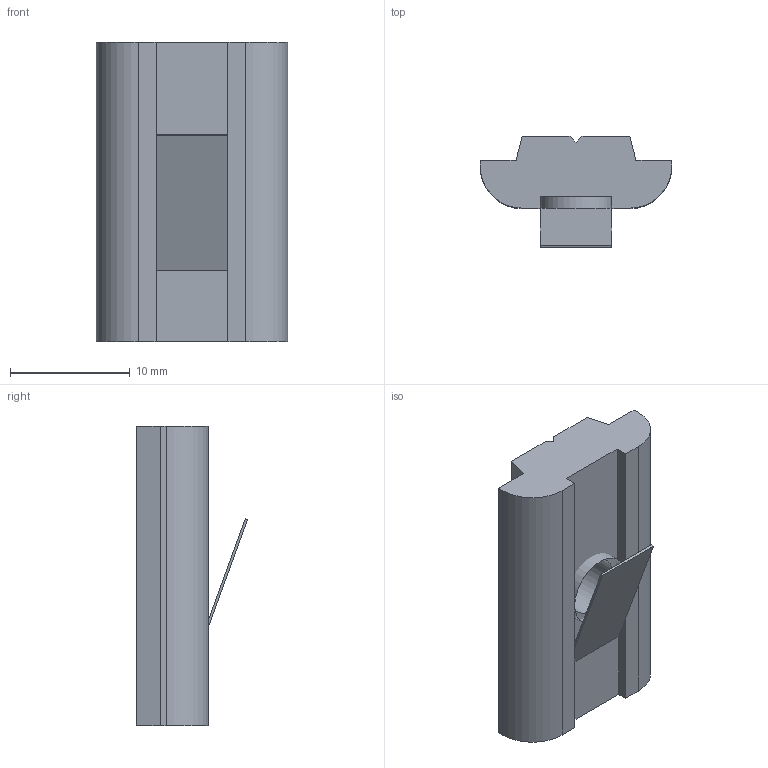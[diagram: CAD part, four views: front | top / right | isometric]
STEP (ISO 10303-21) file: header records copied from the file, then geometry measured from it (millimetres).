
FILE_DESCRIPTION((''),'2;1');
FILE_NAME('DATM0610','2002-12-27T',('Lipro doo'),('Lipro d.o.o.'),'PRO/ENGINEER BY PARAMETRIC TECHNOLOGY CORPORATION, 2001150','PRO/ENGINEER BY PARAMETRIC TECHNOLOGY CORPORATION, 2001150','');
FILE_SCHEMA(('CONFIG_CONTROL_DESIGN'));
Length unit declared in the file: millimetre
Products named in the file (1): DATM0610
Bounding box: 16 x 9.29 x 25 mm (x, y, z)
Volume: 1708.4 mm3; surface area: 1494.6 mm2
Topology: 1 solids, 2 shells, 35 faces, 102 edges, 68 vertices
Faces by surface type: plane 27, cylinder 6, cone 2
Entity records: 1203 total; most frequent: CARTESIAN_POINT 229, ORIENTED_EDGE 194, DIRECTION 184, EDGE_CURVE 102, VECTOR 76, LINE 76, VERTEX_POINT 68, AXIS2_PLACEMENT_3D 54
